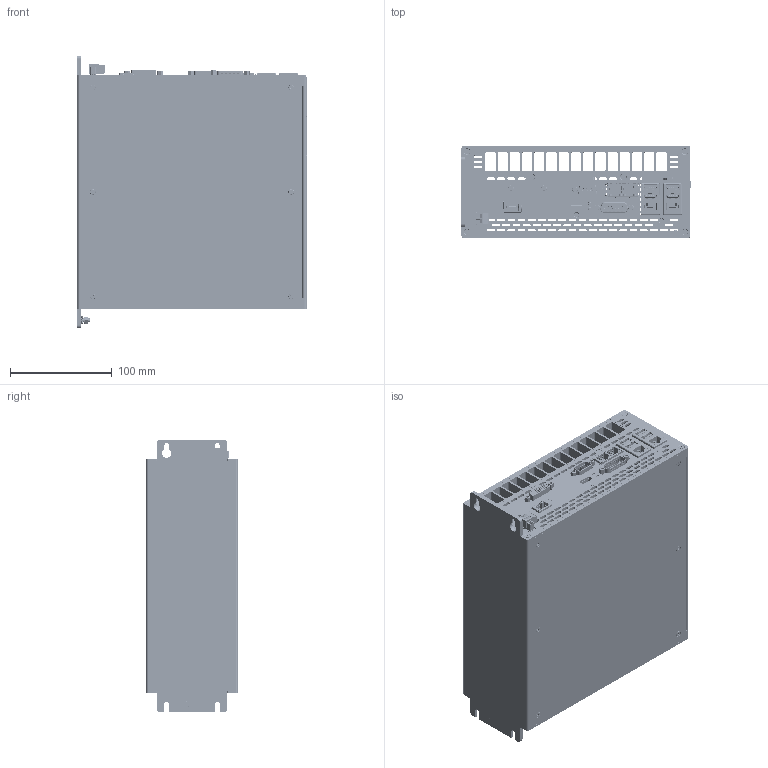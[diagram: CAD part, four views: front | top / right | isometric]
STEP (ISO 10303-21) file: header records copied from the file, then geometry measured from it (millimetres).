
FILE_DESCRIPTION (( 'STEP AP214' ), '1' );
FILE_NAME ('C6P34-BM_D1_RVL_RS232.STEP', '2019-09-20T13:54:12', ( '' ), ( '' ), 'SwSTEP 2.0', 'SolidWorks 2018', '' );
FILE_SCHEMA (( 'AUTOMOTIVE_DESIGN' ));
Length unit declared in the file: millimetre
Products named in the file (50): 62920005; C6P34-BM_D1_RVL_RS232; 52500002; 21502089; 54336010; 66320015; 66011039; 61820002; 21410056; 7397_276_Depopolata; 62920001; 21509026; 66820000; 7397_212_Depopolata; 53936027; 7397_276; 21509048; 7359_051_Depopolata; 21512011; 7397_212; 23330039; 21505014; 54336015; 52536136; 57136006; 52912002; 56636726; 21409042; foot2579_700000; 21410046; 56636706; 20100011; 21405029; piazzuola_de800_di370; 21402062; 54236002_Default<A macchina>; 21614000; 66811014; 7359_051; 21410060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
Assembly tree (116 placements, depth 3):
  C6P34-BM_D1_RVL_RS232
    52500002
      52536136
      52912002
      66320015  x4
    7359_051_Depopolata
      7359_051
      23330039  x4
      21410052
      21512011
      21410046  x2
      21410056
      21409042
      21405029  x2
      20100011
      21509026
      piazzuola_de800_di370  x8
      14300036  x7
    54236002_Default<A macchina>
    7397_279_Depopolata
      7397_279
      21502089
      piazzuola_de800_di370  x5
    21402062
    54336015
      54336010
      57136005
      62990009  x4
      64312003  x4
      62120039  x2
      57136006
    56636726
    56636706
    53936027  x2
    21614000  x6
    66011039  x12
    66820000  x2
    66811014  x12
    62920001
    62920005
    62920011
    61820002
    7397_212_Depopolata
      7397_212
      14300030
      21505014
      foot2579_700000
      21509048
      piazzuola_de800_di370
    7397_276_Depopolata
      7397_276
      21410060
      21505014
      piazzuola_de800_di370  x2
      14300036
Bounding box: 225.01 x 90 x 268 mm (x, y, z)
Volume: 527059.3 mm3; surface area: 958789.5 mm2
Topology: 195 solids, 422 shells, 29021 faces, 80566 edges, 52410 vertices
Faces by surface type: plane 18838, cylinder 8686, bspline 725, cone 609, torus 148, sphere 15
Entity records: 831127 total; most frequent: CARTESIAN_POINT 171085, ORIENTED_EDGE 125737, DIRECTION 117102, EDGE_CURVE 63731, LINE 44688, VECTOR 44688, VERTEX_POINT 41538, AXIS2_PLACEMENT_3D 36207
